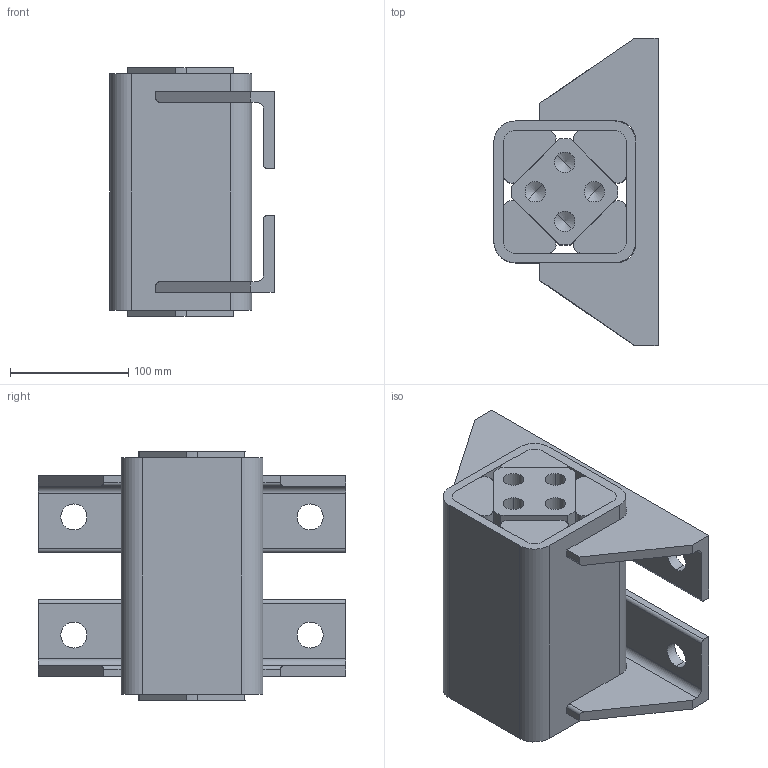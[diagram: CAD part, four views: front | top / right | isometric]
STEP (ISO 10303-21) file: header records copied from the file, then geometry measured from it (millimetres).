
FILE_DESCRIPTION((''),'2;1');
FILE_NAME('D:\ROSTA\Gummifederelemente\3D\DW-A70x200_01101004.stp','2005-02-11T03:59:15',('Administrator'),(''),'Autodesk Inventor 8','Autodesk Inventor 8','');
FILE_SCHEMA(('AUTOMOTIVE_DESIGN { 1 0 10303 214 1 1 1 1 }'));
Length unit declared in the file: millimetre
Products named in the file (5): Baugruppe5; 2.4.4812-001; 2.4.4812-002; 2.4.4812-003; 2.4.4812-004
Assembly tree (8 placements, depth 2):
  Baugruppe5
    2.4.4812-001
    2.4.4812-002
    2.4.4812-003  x2
    2.4.4812-004  x4
Bounding box: 139 x 260 x 210 mm (x, y, z)
Volume: 3152573.9 mm3; surface area: 507542.6 mm2
Topology: 8 solids, 8 shells, 140 faces, 356 edges, 224 vertices
Faces by surface type: plane 64, cylinder 44, bspline 32
Entity records: 3272 total; most frequent: CARTESIAN_POINT 1013, DIRECTION 448, ORIENTED_EDGE 440, EDGE_CURVE 220, AXIS2_PLACEMENT_3D 155, VERTEX_POINT 144, VECTOR 138, LINE 138
